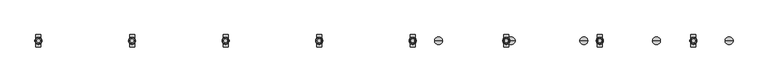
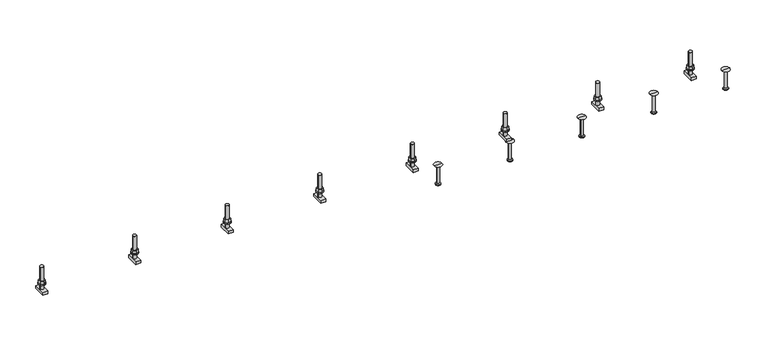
"""IFC4 building model written with IfcOpenShell, lengths in millimetres: fastener geometry, JTA-K JORDAHL® AnchorChannels : JTA-K L=3000 mm."""

from ifc_helpers import new_model, si_unit, point, frame, frame_2d, origin, place, context, project, spatial, polyline, circle_curve, trimmed, segment, composite_curve, outline, extrude, source, transform, mapped, element, save
from ifc_brep_helpers import plane_surface, cylinder_surface, revolved_surface, advanced_brep


def fastener_0f207156(model_context):
    return source(origin(), model_context, "Body", "SolidModel", [
        extrude(outline(polyline([(2608.3333333, -10.3923048), (2599.3333333, -5.1961524), (2599.3333333, 5.1961524), (2608.3333333, 10.3923048), (2617.3333333, 5.1961524), (2617.3333333, -5.1961524), (2608.3333333, -10.3923048)]), holes=[composite_curve([segment(trimmed(circle_curve(frame_2d((2608.3333333, 0.0)), 6.0), [point((2602.3333333, 0.0))], [point((2614.3333333, 0.0))], True, "CARTESIAN"), True, "CONTINUOUS"), segment(trimmed(circle_curve(frame_2d((2608.3333333, 0.0)), 6.0), [point((2614.3333333, 0.0))], [point((2602.3333333, 0.0))], True, "CARTESIAN"), True, "CONTINUOUS")], self_intersect=False)]), frame((0.0, 0.0, 17.5), z_axis=(0.0, 0.0, 1.0), x_axis=(1.0, 0.0, 0.0)), (0.0, 0.0, 1.0), 10.8),
        extrude(outline(composite_curve([segment(trimmed(circle_curve(frame_2d((2608.3333333, 0.0)), 12.0), [point((2596.3333333, 0.0))], [point((2620.3333333, 0.0))], False, "CARTESIAN"), True, "CONTINUOUS"), segment(trimmed(circle_curve(frame_2d((2608.3333333, 0.0)), 12.0), [point((2620.3333333, 0.0))], [point((2596.3333333, 0.0))], False, "CARTESIAN"), True, "CONTINUOUS")], self_intersect=False), holes=[composite_curve([segment(trimmed(circle_curve(frame_2d((2608.3333333, 0.0)), 6.5), [point((2601.8333333, 0.0))], [point((2614.8333333, 0.0))], True, "CARTESIAN"), True, "CONTINUOUS"), segment(trimmed(circle_curve(frame_2d((2608.3333333, 0.0)), 6.5), [point((2614.8333333, 0.0))], [point((2601.8333333, 0.0))], True, "CARTESIAN"), True, "CONTINUOUS")], self_intersect=False)]), frame((0.0, 0.0, 15.0), z_axis=(0.0, 0.0, 1.0), x_axis=(1.0, 0.0, 0.0)), (0.0, 0.0, 1.0), 2.5),
        extrude(outline(polyline([(2291.6666667, -10.3923048), (2282.6666667, -5.1961524), (2282.6666667, 5.1961524), (2291.6666667, 10.3923048), (2300.6666667, 5.1961524), (2300.6666667, -5.1961524), (2291.6666667, -10.3923048)]), holes=[composite_curve([segment(trimmed(circle_curve(frame_2d((2291.6666667, 0.0)), 6.0), [point((2285.6666667, 0.0))], [point((2297.6666667, 0.0))], True, "CARTESIAN"), True, "CONTINUOUS"), segment(trimmed(circle_curve(frame_2d((2291.6666667, 0.0)), 6.0), [point((2297.6666667, 0.0))], [point((2285.6666667, 0.0))], True, "CARTESIAN"), True, "CONTINUOUS")], self_intersect=False)]), frame((0.0, 0.0, 17.5), z_axis=(0.0, 0.0, 1.0), x_axis=(1.0, 0.0, 0.0)), (0.0, 0.0, 1.0), 10.8),
        extrude(outline(composite_curve([segment(trimmed(circle_curve(frame_2d((2291.6666667, 0.0)), 12.0), [point((2279.6666667, 0.0))], [point((2303.6666667, 0.0))], False, "CARTESIAN"), True, "CONTINUOUS"), segment(trimmed(circle_curve(frame_2d((2291.6666667, 0.0)), 12.0), [point((2303.6666667, 0.0))], [point((2279.6666667, 0.0))], False, "CARTESIAN"), True, "CONTINUOUS")], self_intersect=False), holes=[composite_curve([segment(trimmed(circle_curve(frame_2d((2291.6666667, 0.0)), 6.5), [point((2285.1666667, 0.0))], [point((2298.1666667, 0.0))], True, "CARTESIAN"), True, "CONTINUOUS"), segment(trimmed(circle_curve(frame_2d((2291.6666667, 0.0)), 6.5), [point((2298.1666667, 0.0))], [point((2285.1666667, 0.0))], True, "CARTESIAN"), True, "CONTINUOUS")], self_intersect=False)]), frame((0.0, 0.0, 15.0), z_axis=(0.0, 0.0, 1.0), x_axis=(1.0, 0.0, 0.0)), (0.0, 0.0, 1.0), 2.5),
        extrude(outline(polyline([(1975.0, -10.3923048), (1966.0, -5.1961524), (1966.0, 5.1961524), (1975.0, 10.3923048), (1984.0, 5.1961524), (1984.0, -5.1961524), (1975.0, -10.3923048)]), holes=[composite_curve([segment(trimmed(circle_curve(frame_2d((1975.0, 0.0)), 6.0), [point((1969.0, 0.0))], [point((1981.0, 0.0))], True, "CARTESIAN"), True, "CONTINUOUS"), segment(trimmed(circle_curve(frame_2d((1975.0, 0.0)), 6.0), [point((1981.0, 0.0))], [point((1969.0, 0.0))], True, "CARTESIAN"), True, "CONTINUOUS")], self_intersect=False)]), frame((0.0, 0.0, 17.5), z_axis=(0.0, 0.0, 1.0), x_axis=(1.0, 0.0, 0.0)), (0.0, 0.0, 1.0), 10.8),
        extrude(outline(composite_curve([segment(trimmed(circle_curve(frame_2d((1975.0, 0.0)), 12.0), [point((1963.0, 0.0))], [point((1987.0, 0.0))], False, "CARTESIAN"), True, "CONTINUOUS"), segment(trimmed(circle_curve(frame_2d((1975.0, 0.0)), 12.0), [point((1987.0, 0.0))], [point((1963.0, 0.0))], False, "CARTESIAN"), True, "CONTINUOUS")], self_intersect=False), holes=[composite_curve([segment(trimmed(circle_curve(frame_2d((1975.0, 0.0)), 6.5), [point((1968.5, 0.0))], [point((1981.5, 0.0))], True, "CARTESIAN"), True, "CONTINUOUS"), segment(trimmed(circle_curve(frame_2d((1975.0, 0.0)), 6.5), [point((1981.5, 0.0))], [point((1968.5, 0.0))], True, "CARTESIAN"), True, "CONTINUOUS")], self_intersect=False)]), frame((0.0, 0.0, 15.0), z_axis=(0.0, 0.0, 1.0), x_axis=(1.0, 0.0, 0.0)), (0.0, 0.0, 1.0), 2.5),
        extrude(outline(polyline([(1658.3333333, -10.3923048), (1649.3333333, -5.1961524), (1649.3333333, 5.1961524), (1658.3333333, 10.3923048), (1667.3333333, 5.1961524), (1667.3333333, -5.1961524), (1658.3333333, -10.3923048)]), holes=[composite_curve([segment(trimmed(circle_curve(frame_2d((1658.3333333, 0.0)), 6.0), [point((1652.3333333, 0.0))], [point((1664.3333333, 0.0))], True, "CARTESIAN"), True, "CONTINUOUS"), segment(trimmed(circle_curve(frame_2d((1658.3333333, 0.0)), 6.0), [point((1664.3333333, 0.0))], [point((1652.3333333, 0.0))], True, "CARTESIAN"), True, "CONTINUOUS")], self_intersect=False)]), frame((0.0, 0.0, 17.5), z_axis=(0.0, 0.0, 1.0), x_axis=(1.0, 0.0, 0.0)), (0.0, 0.0, 1.0), 10.8),
        extrude(outline(composite_curve([segment(trimmed(circle_curve(frame_2d((1658.3333333, 0.0)), 12.0), [point((1646.3333333, 0.0))], [point((1670.3333333, 0.0))], False, "CARTESIAN"), True, "CONTINUOUS"), segment(trimmed(circle_curve(frame_2d((1658.3333333, 0.0)), 12.0), [point((1670.3333333, 0.0))], [point((1646.3333333, 0.0))], False, "CARTESIAN"), True, "CONTINUOUS")], self_intersect=False), holes=[composite_curve([segment(trimmed(circle_curve(frame_2d((1658.3333333, 0.0)), 6.5), [point((1651.8333333, 0.0))], [point((1664.8333333, 0.0))], True, "CARTESIAN"), True, "CONTINUOUS"), segment(trimmed(circle_curve(frame_2d((1658.3333333, 0.0)), 6.5), [point((1664.8333333, 0.0))], [point((1651.8333333, 0.0))], True, "CARTESIAN"), True, "CONTINUOUS")], self_intersect=False)]), frame((0.0, 0.0, 15.0), z_axis=(0.0, 0.0, 1.0), x_axis=(1.0, 0.0, 0.0)), (0.0, 0.0, 1.0), 2.5),
        extrude(outline(polyline([(1341.6666667, -10.3923048), (1332.6666667, -5.1961524), (1332.6666667, 5.1961524), (1341.6666667, 10.3923048), (1350.6666667, 5.1961524), (1350.6666667, -5.1961524), (1341.6666667, -10.3923048)]), holes=[composite_curve([segment(trimmed(circle_curve(frame_2d((1341.6666667, 0.0)), 6.0), [point((1335.6666667, 0.0))], [point((1347.6666667, 0.0))], True, "CARTESIAN"), True, "CONTINUOUS"), segment(trimmed(circle_curve(frame_2d((1341.6666667, 0.0)), 6.0), [point((1347.6666667, 0.0))], [point((1335.6666667, 0.0))], True, "CARTESIAN"), True, "CONTINUOUS")], self_intersect=False)]), frame((0.0, 0.0, 17.5), z_axis=(0.0, 0.0, 1.0), x_axis=(1.0, 0.0, 0.0)), (0.0, 0.0, 1.0), 10.8),
        extrude(outline(composite_curve([segment(trimmed(circle_curve(frame_2d((1341.6666667, 0.0)), 12.0), [point((1329.6666667, 0.0))], [point((1353.6666667, 0.0))], False, "CARTESIAN"), True, "CONTINUOUS"), segment(trimmed(circle_curve(frame_2d((1341.6666667, 0.0)), 12.0), [point((1353.6666667, 0.0))], [point((1329.6666667, 0.0))], False, "CARTESIAN"), True, "CONTINUOUS")], self_intersect=False), holes=[composite_curve([segment(trimmed(circle_curve(frame_2d((1341.6666667, 0.0)), 6.5), [point((1335.1666667, 0.0))], [point((1348.1666667, 0.0))], True, "CARTESIAN"), True, "CONTINUOUS"), segment(trimmed(circle_curve(frame_2d((1341.6666667, 0.0)), 6.5), [point((1348.1666667, 0.0))], [point((1335.1666667, 0.0))], True, "CARTESIAN"), True, "CONTINUOUS")], self_intersect=False)]), frame((0.0, 0.0, 15.0), z_axis=(0.0, 0.0, 1.0), x_axis=(1.0, 0.0, 0.0)), (0.0, 0.0, 1.0), 2.5),
        extrude(outline(polyline([(1025.0, -10.3923048), (1016.0, -5.1961524), (1016.0, 5.1961524), (1025.0, 10.3923048), (1034.0, 5.1961524), (1034.0, -5.1961524), (1025.0, -10.3923048)]), holes=[composite_curve([segment(trimmed(circle_curve(frame_2d((1025.0, 0.0)), 6.0), [point((1019.0, 0.0))], [point((1031.0, 0.0))], True, "CARTESIAN"), True, "CONTINUOUS"), segment(trimmed(circle_curve(frame_2d((1025.0, 0.0)), 6.0), [point((1031.0, 0.0))], [point((1019.0, 0.0))], True, "CARTESIAN"), True, "CONTINUOUS")], self_intersect=False)]), frame((0.0, 0.0, 17.5), z_axis=(0.0, 0.0, 1.0), x_axis=(1.0, 0.0, 0.0)), (0.0, 0.0, 1.0), 10.8),
        extrude(outline(composite_curve([segment(trimmed(circle_curve(frame_2d((1025.0, 0.0)), 12.0), [point((1013.0, 0.0))], [point((1037.0, 0.0))], False, "CARTESIAN"), True, "CONTINUOUS"), segment(trimmed(circle_curve(frame_2d((1025.0, 0.0)), 12.0), [point((1037.0, 0.0))], [point((1013.0, 0.0))], False, "CARTESIAN"), True, "CONTINUOUS")], self_intersect=False), holes=[composite_curve([segment(trimmed(circle_curve(frame_2d((1025.0, 0.0)), 6.5), [point((1018.5, 0.0))], [point((1031.5, 0.0))], True, "CARTESIAN"), True, "CONTINUOUS"), segment(trimmed(circle_curve(frame_2d((1025.0, 0.0)), 6.5), [point((1031.5, 0.0))], [point((1018.5, 0.0))], True, "CARTESIAN"), True, "CONTINUOUS")], self_intersect=False)]), frame((0.0, 0.0, 15.0), z_axis=(0.0, 0.0, 1.0), x_axis=(1.0, 0.0, 0.0)), (0.0, 0.0, 1.0), 2.5),
        extrude(outline(polyline([(708.3333333, -10.3923048), (699.3333333, -5.1961524), (699.3333333, 5.1961524), (708.3333333, 10.3923048), (717.3333333, 5.1961524), (717.3333333, -5.1961524), (708.3333333, -10.3923048)]), holes=[composite_curve([segment(trimmed(circle_curve(frame_2d((708.3333333, 0.0)), 6.0), [point((702.3333333, 0.0))], [point((714.3333333, 0.0))], True, "CARTESIAN"), True, "CONTINUOUS"), segment(trimmed(circle_curve(frame_2d((708.3333333, 0.0)), 6.0), [point((714.3333333, 0.0))], [point((702.3333333, 0.0))], True, "CARTESIAN"), True, "CONTINUOUS")], self_intersect=False)]), frame((0.0, 0.0, 17.5), z_axis=(0.0, 0.0, 1.0), x_axis=(1.0, 0.0, 0.0)), (0.0, 0.0, 1.0), 10.8),
        extrude(outline(composite_curve([segment(trimmed(circle_curve(frame_2d((708.3333333, 0.0)), 12.0), [point((696.3333333, 0.0))], [point((720.3333333, 0.0))], False, "CARTESIAN"), True, "CONTINUOUS"), segment(trimmed(circle_curve(frame_2d((708.3333333, 0.0)), 12.0), [point((720.3333333, 0.0))], [point((696.3333333, 0.0))], False, "CARTESIAN"), True, "CONTINUOUS")], self_intersect=False), holes=[composite_curve([segment(trimmed(circle_curve(frame_2d((708.3333333, 0.0)), 6.5), [point((701.8333333, 0.0))], [point((714.8333333, 0.0))], True, "CARTESIAN"), True, "CONTINUOUS"), segment(trimmed(circle_curve(frame_2d((708.3333333, 0.0)), 6.5), [point((714.8333333, 0.0))], [point((701.8333333, 0.0))], True, "CARTESIAN"), True, "CONTINUOUS")], self_intersect=False)]), frame((0.0, 0.0, 15.0), z_axis=(0.0, 0.0, 1.0), x_axis=(1.0, 0.0, 0.0)), (0.0, 0.0, 1.0), 2.5),
        extrude(outline(polyline([(391.6666667, -10.3923048), (382.6666667, -5.1961524), (382.6666667, 5.1961524), (391.6666667, 10.3923048), (400.6666667, 5.1961524), (400.6666667, -5.1961524), (391.6666667, -10.3923048)]), holes=[composite_curve([segment(trimmed(circle_curve(frame_2d((391.6666667, 0.0)), 6.0), [point((385.6666667, 0.0))], [point((397.6666667, 0.0))], True, "CARTESIAN"), True, "CONTINUOUS"), segment(trimmed(circle_curve(frame_2d((391.6666667, 0.0)), 6.0), [point((397.6666667, 0.0))], [point((385.6666667, 0.0))], True, "CARTESIAN"), True, "CONTINUOUS")], self_intersect=False)]), frame((0.0, 0.0, 17.5), z_axis=(0.0, 0.0, 1.0), x_axis=(1.0, 0.0, 0.0)), (0.0, 0.0, 1.0), 10.8),
        extrude(outline(composite_curve([segment(trimmed(circle_curve(frame_2d((391.6666667, 0.0)), 12.0), [point((379.6666667, 0.0))], [point((403.6666667, 0.0))], False, "CARTESIAN"), True, "CONTINUOUS"), segment(trimmed(circle_curve(frame_2d((391.6666667, 0.0)), 12.0), [point((403.6666667, 0.0))], [point((379.6666667, 0.0))], False, "CARTESIAN"), True, "CONTINUOUS")], self_intersect=False), holes=[composite_curve([segment(trimmed(circle_curve(frame_2d((391.6666667, 0.0)), 6.5), [point((385.1666667, 0.0))], [point((398.1666667, 0.0))], True, "CARTESIAN"), True, "CONTINUOUS"), segment(trimmed(circle_curve(frame_2d((391.6666667, 0.0)), 6.5), [point((398.1666667, 0.0))], [point((385.1666667, 0.0))], True, "CARTESIAN"), True, "CONTINUOUS")], self_intersect=False)]), frame((0.0, 0.0, 15.0), z_axis=(0.0, 0.0, 1.0), x_axis=(1.0, 0.0, 0.0)), (0.0, 0.0, 1.0), 2.5),
        advanced_brep(
        [(2616.8333333, -20.7, -3.0), (2616.8333333, -20.7, -13.0), (2616.8333333, 20.7, -13.0), (2616.8333333, 20.7, -3.0), (2599.8333333, -20.7, -3.0), (2599.8333333, 20.7, -3.0), (2599.8333333, 20.7, -13.0), (2599.8333333, -20.7, -13.0), (2614.3333333, 0.0, -3.0), (2602.3333333, 0.0, -3.0), (2602.3333333, 0.0, 77.0), (2614.3333333, 0.0, 77.0)],
        [
            (0, 1),
            (1, 2),
            (2, 3),
            (3, 0),
            (4, 5),
            (5, 6),
            (6, 7),
            (7, 4),
            (3, 5),
            (4, 0),
            (8, 9, circle_curve(frame((2608.3333333, 0.0, -3.0), z_axis=(0.0, 0.0, -1.0), x_axis=(1.0, 0.0, 0.0)), 6.0)),
            (9, 8, circle_curve(frame((2608.3333333, 0.0, -3.0), z_axis=(0.0, 0.0, -1.0), x_axis=(1.0, 0.0, 0.0)), 6.0)),
            (2, 6),
            (1, 7),
            (10, 11, circle_curve(frame((2608.3333333, 0.0, 77.0), z_axis=(0.0, 0.0, 1.0), x_axis=(1.0, 0.0, 0.0)), 6.0)),
            (11, 10, circle_curve(frame((2608.3333333, 0.0, 77.0), z_axis=(0.0, 0.0, 1.0), x_axis=(1.0, 0.0, 0.0)), 6.0)),
            (11, 8),
            (9, 10),
        ],
        [
            plane_surface(frame((2616.8333333, 20.7, -3.0), z_axis=(1.0, 0.0, 0.0), x_axis=(0.0, 1.0, 0.0))),
            plane_surface(frame((2599.8333333, 20.7, -3.0), z_axis=(-1.0, 0.0, 0.0), x_axis=(0.0, -1.0, 0.0))),
            plane_surface(frame((2616.8333333, -20.7, -3.0), z_axis=(0.0, 0.0, 1.0), x_axis=(-1.0, 0.0, 0.0))),
            plane_surface(frame((2616.8333333, 20.7, -3.0), z_axis=(0.0, 1.0, 0.0), x_axis=(-1.0, 0.0, 0.0))),
            plane_surface(frame((2616.8333333, 20.7, -13.0), z_axis=(0.0, 0.0, -1.0), x_axis=(-1.0, 0.0, 0.0))),
            plane_surface(frame((2616.8333333, -20.7, -13.0), z_axis=(0.0, -1.0, 0.0), x_axis=(-1.0, 0.0, 0.0))),
            plane_surface(frame((2614.3333333, 0.0, 77.0), z_axis=(0.0, 0.0, 1.0), x_axis=(0.0, -1.0, 0.0))),
            cylinder_surface(frame((2608.3333333, 0.0, -3.0), z_axis=(0.0, 0.0, 1.0), x_axis=(1.0, 0.0, 0.0)), 6.0),
        ],
        [
            (0, [[1, 2, 3, 4]]),
            (1, [[5, 6, 7, 8]]),
            (2, [[9, -5, 10, -4], [11, 12]]),
            (3, [[13, -6, -9, -3]]),
            (4, [[14, -7, -13, -2]]),
            (5, [[-10, -8, -14, -1]]),
            (6, [[15, 16]]),
            (7, [[17, -12, 18, -16]]),
            (7, [[-18, -11, -17, -15]]),
        ],
    ),
        advanced_brep(
        [(2300.1666667, -20.7, -3.0), (2300.1666667, -20.7, -13.0), (2300.1666667, 20.7, -13.0), (2300.1666667, 20.7, -3.0), (2283.1666667, -20.7, -3.0), (2283.1666667, 20.7, -3.0), (2283.1666667, 20.7, -13.0), (2283.1666667, -20.7, -13.0), (2297.6666667, 0.0, -3.0), (2285.6666667, 0.0, -3.0), (2285.6666667, 0.0, 77.0), (2297.6666667, 0.0, 77.0)],
        [
            (0, 1),
            (1, 2),
            (2, 3),
            (3, 0),
            (4, 5),
            (5, 6),
            (6, 7),
            (7, 4),
            (3, 5),
            (4, 0),
            (8, 9, circle_curve(frame((2291.6666667, 0.0, -3.0), z_axis=(0.0, 0.0, -1.0), x_axis=(1.0, 0.0, 0.0)), 6.0)),
            (9, 8, circle_curve(frame((2291.6666667, 0.0, -3.0), z_axis=(0.0, 0.0, -1.0), x_axis=(1.0, 0.0, 0.0)), 6.0)),
            (2, 6),
            (1, 7),
            (10, 11, circle_curve(frame((2291.6666667, 0.0, 77.0), z_axis=(0.0, 0.0, 1.0), x_axis=(1.0, 0.0, 0.0)), 6.0)),
            (11, 10, circle_curve(frame((2291.6666667, 0.0, 77.0), z_axis=(0.0, 0.0, 1.0), x_axis=(1.0, 0.0, 0.0)), 6.0)),
            (11, 8),
            (9, 10),
        ],
        [
            plane_surface(frame((2300.1666667, 20.7, -3.0), z_axis=(1.0, 0.0, 0.0), x_axis=(0.0, 1.0, 0.0))),
            plane_surface(frame((2283.1666667, 20.7, -3.0), z_axis=(-1.0, 0.0, 0.0), x_axis=(0.0, -1.0, 0.0))),
            plane_surface(frame((2300.1666667, -20.7, -3.0), z_axis=(0.0, 0.0, 1.0), x_axis=(-1.0, 0.0, 0.0))),
            plane_surface(frame((2300.1666667, 20.7, -3.0), z_axis=(0.0, 1.0, 0.0), x_axis=(-1.0, 0.0, 0.0))),
            plane_surface(frame((2300.1666667, 20.7, -13.0), z_axis=(0.0, 0.0, -1.0), x_axis=(-1.0, 0.0, 0.0))),
            plane_surface(frame((2300.1666667, -20.7, -13.0), z_axis=(0.0, -1.0, 0.0), x_axis=(-1.0, 0.0, 0.0))),
            plane_surface(frame((2297.6666667, 0.0, 77.0), z_axis=(0.0, 0.0, 1.0), x_axis=(0.0, -1.0, 0.0))),
            cylinder_surface(frame((2291.6666667, 0.0, -3.0), z_axis=(0.0, 0.0, 1.0), x_axis=(1.0, 0.0, 0.0)), 6.0),
        ],
        [
            (0, [[1, 2, 3, 4]]),
            (1, [[5, 6, 7, 8]]),
            (2, [[9, -5, 10, -4], [11, 12]]),
            (3, [[13, -6, -9, -3]]),
            (4, [[14, -7, -13, -2]]),
            (5, [[-10, -8, -14, -1]]),
            (6, [[15, 16]]),
            (7, [[17, -12, 18, -16]]),
            (7, [[-18, -11, -17, -15]]),
        ],
    ),
        advanced_brep(
        [(1983.5, -20.7, -3.0), (1983.5, -20.7, -13.0), (1983.5, 20.7, -13.0), (1983.5, 20.7, -3.0), (1966.5, -20.7, -3.0), (1966.5, 20.7, -3.0), (1966.5, 20.7, -13.0), (1966.5, -20.7, -13.0), (1981.0, 0.0, -3.0), (1969.0, 0.0, -3.0), (1969.0, 0.0, 77.0), (1981.0, 0.0, 77.0)],
        [
            (0, 1),
            (1, 2),
            (2, 3),
            (3, 0),
            (4, 5),
            (5, 6),
            (6, 7),
            (7, 4),
            (3, 5),
            (4, 0),
            (8, 9, circle_curve(frame((1975.0, 0.0, -3.0), z_axis=(0.0, 0.0, -1.0), x_axis=(1.0, 0.0, 0.0)), 6.0)),
            (9, 8, circle_curve(frame((1975.0, 0.0, -3.0), z_axis=(0.0, 0.0, -1.0), x_axis=(1.0, 0.0, 0.0)), 6.0)),
            (2, 6),
            (1, 7),
            (10, 11, circle_curve(frame((1975.0, 0.0, 77.0), z_axis=(0.0, 0.0, 1.0), x_axis=(1.0, 0.0, 0.0)), 6.0)),
            (11, 10, circle_curve(frame((1975.0, 0.0, 77.0), z_axis=(0.0, 0.0, 1.0), x_axis=(1.0, 0.0, 0.0)), 6.0)),
            (11, 8),
            (9, 10),
        ],
        [
            plane_surface(frame((1983.5, 20.7, -3.0), z_axis=(1.0, 0.0, 0.0), x_axis=(0.0, 1.0, 0.0))),
            plane_surface(frame((1966.5, 20.7, -3.0), z_axis=(-1.0, 0.0, 0.0), x_axis=(0.0, -1.0, 0.0))),
            plane_surface(frame((1983.5, -20.7, -3.0), z_axis=(0.0, 0.0, 1.0), x_axis=(-1.0, 0.0, 0.0))),
            plane_surface(frame((1983.5, 20.7, -3.0), z_axis=(0.0, 1.0, 0.0), x_axis=(-1.0, 0.0, 0.0))),
            plane_surface(frame((1983.5, 20.7, -13.0), z_axis=(0.0, 0.0, -1.0), x_axis=(-1.0, 0.0, 0.0))),
            plane_surface(frame((1983.5, -20.7, -13.0), z_axis=(0.0, -1.0, 0.0), x_axis=(-1.0, 0.0, 0.0))),
            plane_surface(frame((1981.0, 0.0, 77.0), z_axis=(0.0, 0.0, 1.0), x_axis=(0.0, -1.0, 0.0))),
            cylinder_surface(frame((1975.0, 0.0, -3.0), z_axis=(0.0, 0.0, 1.0), x_axis=(1.0, 0.0, 0.0)), 6.0),
        ],
        [
            (0, [[1, 2, 3, 4]]),
            (1, [[5, 6, 7, 8]]),
            (2, [[9, -5, 10, -4], [11, 12]]),
            (3, [[13, -6, -9, -3]]),
            (4, [[14, -7, -13, -2]]),
            (5, [[-10, -8, -14, -1]]),
            (6, [[15, 16]]),
            (7, [[17, -12, 18, -16]]),
            (7, [[-18, -11, -17, -15]]),
        ],
    ),
        advanced_brep(
        [(1666.8333333, -20.7, -3.0), (1666.8333333, -20.7, -13.0), (1666.8333333, 20.7, -13.0), (1666.8333333, 20.7, -3.0), (1649.8333333, -20.7, -3.0), (1649.8333333, 20.7, -3.0), (1649.8333333, 20.7, -13.0), (1649.8333333, -20.7, -13.0), (1664.3333333, 0.0, -3.0), (1652.3333333, 0.0, -3.0), (1652.3333333, 0.0, 77.0), (1664.3333333, 0.0, 77.0)],
        [
            (0, 1),
            (1, 2),
            (2, 3),
            (3, 0),
            (4, 5),
            (5, 6),
            (6, 7),
            (7, 4),
            (3, 5),
            (4, 0),
            (8, 9, circle_curve(frame((1658.3333333, 0.0, -3.0), z_axis=(0.0, 0.0, -1.0), x_axis=(1.0, 0.0, 0.0)), 6.0)),
            (9, 8, circle_curve(frame((1658.3333333, 0.0, -3.0), z_axis=(0.0, 0.0, -1.0), x_axis=(1.0, 0.0, 0.0)), 6.0)),
            (2, 6),
            (1, 7),
            (10, 11, circle_curve(frame((1658.3333333, 0.0, 77.0), z_axis=(0.0, 0.0, 1.0), x_axis=(1.0, 0.0, 0.0)), 6.0)),
            (11, 10, circle_curve(frame((1658.3333333, 0.0, 77.0), z_axis=(0.0, 0.0, 1.0), x_axis=(1.0, 0.0, 0.0)), 6.0)),
            (11, 8),
            (9, 10),
        ],
        [
            plane_surface(frame((1666.8333333, 20.7, -3.0), z_axis=(1.0, 0.0, 0.0), x_axis=(0.0, 1.0, 0.0))),
            plane_surface(frame((1649.8333333, 20.7, -3.0), z_axis=(-1.0, 0.0, 0.0), x_axis=(0.0, -1.0, 0.0))),
            plane_surface(frame((1666.8333333, -20.7, -3.0), z_axis=(0.0, 0.0, 1.0), x_axis=(-1.0, 0.0, 0.0))),
            plane_surface(frame((1666.8333333, 20.7, -3.0), z_axis=(0.0, 1.0, 0.0), x_axis=(-1.0, 0.0, 0.0))),
            plane_surface(frame((1666.8333333, 20.7, -13.0), z_axis=(0.0, 0.0, -1.0), x_axis=(-1.0, 0.0, 0.0))),
            plane_surface(frame((1666.8333333, -20.7, -13.0), z_axis=(0.0, -1.0, 0.0), x_axis=(-1.0, 0.0, 0.0))),
            plane_surface(frame((1664.3333333, 0.0, 77.0), z_axis=(0.0, 0.0, 1.0), x_axis=(0.0, -1.0, 0.0))),
            cylinder_surface(frame((1658.3333333, 0.0, -3.0), z_axis=(0.0, 0.0, 1.0), x_axis=(1.0, 0.0, 0.0)), 6.0),
        ],
        [
            (0, [[1, 2, 3, 4]]),
            (1, [[5, 6, 7, 8]]),
            (2, [[9, -5, 10, -4], [11, 12]]),
            (3, [[13, -6, -9, -3]]),
            (4, [[14, -7, -13, -2]]),
            (5, [[-10, -8, -14, -1]]),
            (6, [[15, 16]]),
            (7, [[17, -12, 18, -16]]),
            (7, [[-18, -11, -17, -15]]),
        ],
    ),
        advanced_brep(
        [(1350.1666667, -20.7, -3.0), (1350.1666667, -20.7, -13.0), (1350.1666667, 20.7, -13.0), (1350.1666667, 20.7, -3.0), (1333.1666667, -20.7, -3.0), (1333.1666667, 20.7, -3.0), (1333.1666667, 20.7, -13.0), (1333.1666667, -20.7, -13.0), (1347.6666667, 0.0, -3.0), (1335.6666667, 0.0, -3.0), (1335.6666667, 0.0, 77.0), (1347.6666667, 0.0, 77.0)],
        [
            (0, 1),
            (1, 2),
            (2, 3),
            (3, 0),
            (4, 5),
            (5, 6),
            (6, 7),
            (7, 4),
            (3, 5),
            (4, 0),
            (8, 9, circle_curve(frame((1341.6666667, 0.0, -3.0), z_axis=(0.0, 0.0, -1.0), x_axis=(1.0, 0.0, 0.0)), 6.0)),
            (9, 8, circle_curve(frame((1341.6666667, 0.0, -3.0), z_axis=(0.0, 0.0, -1.0), x_axis=(1.0, 0.0, 0.0)), 6.0)),
            (2, 6),
            (1, 7),
            (10, 11, circle_curve(frame((1341.6666667, 0.0, 77.0), z_axis=(0.0, 0.0, 1.0), x_axis=(1.0, 0.0, 0.0)), 6.0)),
            (11, 10, circle_curve(frame((1341.6666667, 0.0, 77.0), z_axis=(0.0, 0.0, 1.0), x_axis=(1.0, 0.0, 0.0)), 6.0)),
            (11, 8),
            (9, 10),
        ],
        [
            plane_surface(frame((1350.1666667, 20.7, -3.0), z_axis=(1.0, 0.0, 0.0), x_axis=(0.0, 1.0, 0.0))),
            plane_surface(frame((1333.1666667, 20.7, -3.0), z_axis=(-1.0, 0.0, 0.0), x_axis=(0.0, -1.0, 0.0))),
            plane_surface(frame((1350.1666667, -20.7, -3.0), z_axis=(0.0, 0.0, 1.0), x_axis=(-1.0, 0.0, 0.0))),
            plane_surface(frame((1350.1666667, 20.7, -3.0), z_axis=(0.0, 1.0, 0.0), x_axis=(-1.0, 0.0, 0.0))),
            plane_surface(frame((1350.1666667, 20.7, -13.0), z_axis=(0.0, 0.0, -1.0), x_axis=(-1.0, 0.0, 0.0))),
            plane_surface(frame((1350.1666667, -20.7, -13.0), z_axis=(0.0, -1.0, 0.0), x_axis=(-1.0, 0.0, 0.0))),
            plane_surface(frame((1347.6666667, 0.0, 77.0), z_axis=(0.0, 0.0, 1.0), x_axis=(0.0, -1.0, 0.0))),
            cylinder_surface(frame((1341.6666667, 0.0, -3.0), z_axis=(0.0, 0.0, 1.0), x_axis=(1.0, 0.0, 0.0)), 6.0),
        ],
        [
            (0, [[1, 2, 3, 4]]),
            (1, [[5, 6, 7, 8]]),
            (2, [[9, -5, 10, -4], [11, 12]]),
            (3, [[13, -6, -9, -3]]),
            (4, [[14, -7, -13, -2]]),
            (5, [[-10, -8, -14, -1]]),
            (6, [[15, 16]]),
            (7, [[17, -12, 18, -16]]),
            (7, [[-18, -11, -17, -15]]),
        ],
    ),
        advanced_brep(
        [(1033.5, -20.7, -3.0), (1033.5, -20.7, -13.0), (1033.5, 20.7, -13.0), (1033.5, 20.7, -3.0), (1016.5, -20.7, -3.0), (1016.5, 20.7, -3.0), (1016.5, 20.7, -13.0), (1016.5, -20.7, -13.0), (1031.0, 0.0, -3.0), (1019.0, 0.0, -3.0), (1019.0, 0.0, 77.0), (1031.0, 0.0, 77.0)],
        [
            (0, 1),
            (1, 2),
            (2, 3),
            (3, 0),
            (4, 5),
            (5, 6),
            (6, 7),
            (7, 4),
            (3, 5),
            (4, 0),
            (8, 9, circle_curve(frame((1025.0, 0.0, -3.0), z_axis=(0.0, 0.0, -1.0), x_axis=(1.0, 0.0, 0.0)), 6.0)),
            (9, 8, circle_curve(frame((1025.0, 0.0, -3.0), z_axis=(0.0, 0.0, -1.0), x_axis=(1.0, 0.0, 0.0)), 6.0)),
            (2, 6),
            (1, 7),
            (10, 11, circle_curve(frame((1025.0, 0.0, 77.0), z_axis=(0.0, 0.0, 1.0), x_axis=(1.0, 0.0, 0.0)), 6.0)),
            (11, 10, circle_curve(frame((1025.0, 0.0, 77.0), z_axis=(0.0, 0.0, 1.0), x_axis=(1.0, 0.0, 0.0)), 6.0)),
            (11, 8),
            (9, 10),
        ],
        [
            plane_surface(frame((1033.5, 20.7, -3.0), z_axis=(1.0, 0.0, 0.0), x_axis=(0.0, 1.0, 0.0))),
            plane_surface(frame((1016.5, 20.7, -3.0), z_axis=(-1.0, 0.0, 0.0), x_axis=(0.0, -1.0, 0.0))),
            plane_surface(frame((1033.5, -20.7, -3.0), z_axis=(0.0, 0.0, 1.0), x_axis=(-1.0, 0.0, 0.0))),
            plane_surface(frame((1033.5, 20.7, -3.0), z_axis=(0.0, 1.0, 0.0), x_axis=(-1.0, 0.0, 0.0))),
            plane_surface(frame((1033.5, 20.7, -13.0), z_axis=(0.0, 0.0, -1.0), x_axis=(-1.0, 0.0, 0.0))),
            plane_surface(frame((1033.5, -20.7, -13.0), z_axis=(0.0, -1.0, 0.0), x_axis=(-1.0, 0.0, 0.0))),
            plane_surface(frame((1031.0, 0.0, 77.0), z_axis=(0.0, 0.0, 1.0), x_axis=(0.0, -1.0, 0.0))),
            cylinder_surface(frame((1025.0, 0.0, -3.0), z_axis=(0.0, 0.0, 1.0), x_axis=(1.0, 0.0, 0.0)), 6.0),
        ],
        [
            (0, [[1, 2, 3, 4]]),
            (1, [[5, 6, 7, 8]]),
            (2, [[9, -5, 10, -4], [11, 12]]),
            (3, [[13, -6, -9, -3]]),
            (4, [[14, -7, -13, -2]]),
            (5, [[-10, -8, -14, -1]]),
            (6, [[15, 16]]),
            (7, [[17, -12, 18, -16]]),
            (7, [[-18, -11, -17, -15]]),
        ],
    ),
        advanced_brep(
        [(716.8333333, -20.7, -3.0), (716.8333333, -20.7, -13.0), (716.8333333, 20.7, -13.0), (716.8333333, 20.7, -3.0), (699.8333333, -20.7, -3.0), (699.8333333, 20.7, -3.0), (699.8333333, 20.7, -13.0), (699.8333333, -20.7, -13.0), (714.3333333, 0.0, -3.0), (702.3333333, 0.0, -3.0), (702.3333333, 0.0, 77.0), (714.3333333, 0.0, 77.0)],
        [
            (0, 1),
            (1, 2),
            (2, 3),
            (3, 0),
            (4, 5),
            (5, 6),
            (6, 7),
            (7, 4),
            (3, 5),
            (4, 0),
            (8, 9, circle_curve(frame((708.3333333, 0.0, -3.0), z_axis=(0.0, 0.0, -1.0), x_axis=(1.0, 0.0, 0.0)), 6.0)),
            (9, 8, circle_curve(frame((708.3333333, 0.0, -3.0), z_axis=(0.0, 0.0, -1.0), x_axis=(1.0, 0.0, 0.0)), 6.0)),
            (2, 6),
            (1, 7),
            (10, 11, circle_curve(frame((708.3333333, 0.0, 77.0), z_axis=(0.0, 0.0, 1.0), x_axis=(1.0, 0.0, 0.0)), 6.0)),
            (11, 10, circle_curve(frame((708.3333333, 0.0, 77.0), z_axis=(0.0, 0.0, 1.0), x_axis=(1.0, 0.0, 0.0)), 6.0)),
            (11, 8),
            (9, 10),
        ],
        [
            plane_surface(frame((716.8333333, 20.7, -3.0), z_axis=(1.0, 0.0, 0.0), x_axis=(0.0, 1.0, 0.0))),
            plane_surface(frame((699.8333333, 20.7, -3.0), z_axis=(-1.0, 0.0, 0.0), x_axis=(0.0, -1.0, 0.0))),
            plane_surface(frame((716.8333333, -20.7, -3.0), z_axis=(0.0, 0.0, 1.0), x_axis=(-1.0, 0.0, 0.0))),
            plane_surface(frame((716.8333333, 20.7, -3.0), z_axis=(0.0, 1.0, 0.0), x_axis=(-1.0, 0.0, 0.0))),
            plane_surface(frame((716.8333333, 20.7, -13.0), z_axis=(0.0, 0.0, -1.0), x_axis=(-1.0, 0.0, 0.0))),
            plane_surface(frame((716.8333333, -20.7, -13.0), z_axis=(0.0, -1.0, 0.0), x_axis=(-1.0, 0.0, 0.0))),
            plane_surface(frame((714.3333333, 0.0, 77.0), z_axis=(0.0, 0.0, 1.0), x_axis=(0.0, -1.0, 0.0))),
            cylinder_surface(frame((708.3333333, 0.0, -3.0), z_axis=(0.0, 0.0, 1.0), x_axis=(1.0, 0.0, 0.0)), 6.0),
        ],
        [
            (0, [[1, 2, 3, 4]]),
            (1, [[5, 6, 7, 8]]),
            (2, [[9, -5, 10, -4], [11, 12]]),
            (3, [[13, -6, -9, -3]]),
            (4, [[14, -7, -13, -2]]),
            (5, [[-10, -8, -14, -1]]),
            (6, [[15, 16]]),
            (7, [[17, -12, 18, -16]]),
            (7, [[-18, -11, -17, -15]]),
        ],
    ),
        advanced_brep(
        [(400.1666667, -20.7, -3.0), (400.1666667, -20.7, -13.0), (400.1666667, 20.7, -13.0), (400.1666667, 20.7, -3.0), (383.1666667, -20.7, -3.0), (383.1666667, 20.7, -3.0), (383.1666667, 20.7, -13.0), (383.1666667, -20.7, -13.0), (397.6666667, 0.0, -3.0), (385.6666667, 0.0, -3.0), (385.6666667, 0.0, 77.0), (397.6666667, 0.0, 77.0)],
        [
            (0, 1),
            (1, 2),
            (2, 3),
            (3, 0),
            (4, 5),
            (5, 6),
            (6, 7),
            (7, 4),
            (3, 5),
            (4, 0),
            (8, 9, circle_curve(frame((391.6666667, 0.0, -3.0), z_axis=(0.0, 0.0, -1.0), x_axis=(1.0, 0.0, 0.0)), 6.0)),
            (9, 8, circle_curve(frame((391.6666667, 0.0, -3.0), z_axis=(0.0, 0.0, -1.0), x_axis=(1.0, 0.0, 0.0)), 6.0)),
            (2, 6),
            (1, 7),
            (10, 11, circle_curve(frame((391.6666667, 0.0, 77.0), z_axis=(0.0, 0.0, 1.0), x_axis=(1.0, 0.0, 0.0)), 6.0)),
            (11, 10, circle_curve(frame((391.6666667, 0.0, 77.0), z_axis=(0.0, 0.0, 1.0), x_axis=(1.0, 0.0, 0.0)), 6.0)),
            (11, 8),
            (9, 10),
        ],
        [
            plane_surface(frame((400.1666667, 20.7, -3.0), z_axis=(1.0, 0.0, 0.0), x_axis=(0.0, 1.0, 0.0))),
            plane_surface(frame((383.1666667, 20.7, -3.0), z_axis=(-1.0, 0.0, 0.0), x_axis=(0.0, -1.0, 0.0))),
            plane_surface(frame((400.1666667, -20.7, -3.0), z_axis=(0.0, 0.0, 1.0), x_axis=(-1.0, 0.0, 0.0))),
            plane_surface(frame((400.1666667, 20.7, -3.0), z_axis=(0.0, 1.0, 0.0), x_axis=(-1.0, 0.0, 0.0))),
            plane_surface(frame((400.1666667, 20.7, -13.0), z_axis=(0.0, 0.0, -1.0), x_axis=(-1.0, 0.0, 0.0))),
            plane_surface(frame((400.1666667, -20.7, -13.0), z_axis=(0.0, -1.0, 0.0), x_axis=(-1.0, 0.0, 0.0))),
            plane_surface(frame((397.6666667, 0.0, 77.0), z_axis=(0.0, 0.0, 1.0), x_axis=(0.0, -1.0, 0.0))),
            cylinder_surface(frame((391.6666667, 0.0, -3.0), z_axis=(0.0, 0.0, 1.0), x_axis=(1.0, 0.0, 0.0)), 6.0),
        ],
        [
            (0, [[1, 2, 3, 4]]),
            (1, [[5, 6, 7, 8]]),
            (2, [[9, -5, 10, -4], [11, 12]]),
            (3, [[13, -6, -9, -3]]),
            (4, [[14, -7, -13, -2]]),
            (5, [[-10, -8, -14, -1]]),
            (6, [[15, 16]]),
            (7, [[17, -12, 18, -16]]),
            (7, [[-18, -11, -17, -15]]),
        ],
    ),
        advanced_brep(
        [(2729.1666667, 0.0, -30.0), (2715.6666667, 0.0, -30.0), (2742.6666667, 0.0, -30.0), (2720.6666667, 0.0, -100.0), (2729.1666667, 0.0, -100.0), (2737.6666667, 0.0, -100.0), (2720.6666667, 0.0, -98.0), (2737.6666667, 0.0, -98.0), (2724.6666667, 0.0, -95.6905989), (2733.6666667, 0.0, -95.6905989), (2724.6666667, 0.0, -32.5), (2733.6666667, 0.0, -32.5)],
        [
            (0, 1),
            (1, 2, circle_curve(frame((2729.1666667, 0.0, -30.0), z_axis=(0.0, 0.0, 1.0), x_axis=(1.0, 0.0, 0.0)), 13.5)),
            (2, 0),
            (2, 1, circle_curve(frame((2729.1666667, 0.0, -30.0), z_axis=(0.0, 0.0, 1.0), x_axis=(1.0, 0.0, 0.0)), 13.5)),
            (3, 4),
            (4, 5),
            (5, 3, circle_curve(frame((2729.1666667, 0.0, -100.0), z_axis=(0.0, 0.0, -1.0), x_axis=(1.0, 0.0, 0.0)), 8.5)),
            (3, 5, circle_curve(frame((2729.1666667, 0.0, -100.0), z_axis=(0.0, 0.0, -1.0), x_axis=(1.0, 0.0, 0.0)), 8.5)),
            (6, 3),
            (5, 7),
            (7, 6, circle_curve(frame((2729.1666667, 0.0, -98.0), z_axis=(0.0, 0.0, -1.0), x_axis=(1.0, 0.0, 0.0)), 8.5)),
            (6, 7, circle_curve(frame((2729.1666667, 0.0, -98.0), z_axis=(0.0, 0.0, -1.0), x_axis=(1.0, 0.0, 0.0)), 8.5)),
            (8, 6),
            (7, 9),
            (9, 8, circle_curve(frame((2729.1666667, 0.0, -95.6905989), z_axis=(0.0, 0.0, -1.0), x_axis=(1.0, 0.0, 0.0)), 4.5)),
            (8, 9, circle_curve(frame((2729.1666667, 0.0, -95.6905989), z_axis=(0.0, 0.0, -1.0), x_axis=(1.0, 0.0, 0.0)), 4.5)),
            (10, 8),
            (9, 11),
            (11, 10, circle_curve(frame((2729.1666667, 0.0, -32.5), z_axis=(0.0, 0.0, -1.0), x_axis=(1.0, 0.0, 0.0)), 4.5)),
            (10, 11, circle_curve(frame((2729.1666667, 0.0, -32.5), z_axis=(0.0, 0.0, -1.0), x_axis=(1.0, 0.0, 0.0)), 4.5)),
            (1, 10),
            (11, 2),
        ],
        [
            plane_surface(frame((2729.1666667, 0.0, -30.0), z_axis=(0.0, 0.0, 1.0), x_axis=(1.0, 0.0, 0.0))),
            plane_surface(frame((2729.1666667, 0.0, -100.0), z_axis=(0.0, 0.0, -1.0), x_axis=(1.0, 0.0, 0.0))),
            cylinder_surface(frame((2729.1666667, 0.0, 2284.3150031), z_axis=(0.0, 0.0, 1.0), x_axis=(1.0, 0.0, 0.0)), 8.5),
            revolved_surface(polyline([(2737.6666667, 0.0, -98.0), (2733.6666667, 0.0, -95.6905989)]), (2729.1666667, 0.0, 2284.3150031), (0.0, 0.0, 1.0)),
            cylinder_surface(frame((2729.1666667, 0.0, 2284.3150031), z_axis=(0.0, 0.0, 1.0), x_axis=(1.0, 0.0, 0.0)), 4.5),
            revolved_surface(polyline([(2733.6666667, 0.0, -32.5), (2742.6666667, 0.0, -30.0)]), (2729.1666667, 0.0, 2284.3150031), (0.0, 0.0, 1.0)),
        ],
        [
            (0, [[1, 2, 3]]),
            (0, [[-3, 4, -1]]),
            (1, [[5, 6, 7]]),
            (1, [[-6, -5, 8]]),
            (2, [[9, -7, 10, 11]]),
            (2, [[-10, -8, -9, 12]]),
            (3, [[13, -11, 14, 15]]),
            (3, [[-14, -12, -13, 16]]),
            (4, [[17, -15, 18, 19]]),
            (4, [[-18, -16, -17, 20]]),
            (5, [[21, -19, 22, -2]]),
            (5, [[-22, -20, -21, -4]]),
        ],
    ),
        advanced_brep(
        [(2483.3333333, 0.0, -30.0), (2469.8333333, 0.0, -30.0), (2496.8333333, 0.0, -30.0), (2474.8333333, 0.0, -100.0), (2483.3333333, 0.0, -100.0), (2491.8333333, 0.0, -100.0), (2474.8333333, 0.0, -98.0), (2491.8333333, 0.0, -98.0), (2478.8333333, 0.0, -95.6905989), (2487.8333333, 0.0, -95.6905989), (2478.8333333, 0.0, -32.5), (2487.8333333, 0.0, -32.5)],
        [
            (0, 1),
            (1, 2, circle_curve(frame((2483.3333333, 0.0, -30.0), z_axis=(0.0, 0.0, 1.0), x_axis=(1.0, 0.0, 0.0)), 13.5)),
            (2, 0),
            (2, 1, circle_curve(frame((2483.3333333, 0.0, -30.0), z_axis=(0.0, 0.0, 1.0), x_axis=(1.0, 0.0, 0.0)), 13.5)),
            (3, 4),
            (4, 5),
            (5, 3, circle_curve(frame((2483.3333333, 0.0, -100.0), z_axis=(0.0, 0.0, -1.0), x_axis=(1.0, 0.0, 0.0)), 8.5)),
            (3, 5, circle_curve(frame((2483.3333333, 0.0, -100.0), z_axis=(0.0, 0.0, -1.0), x_axis=(1.0, 0.0, 0.0)), 8.5)),
            (6, 3),
            (5, 7),
            (7, 6, circle_curve(frame((2483.3333333, 0.0, -98.0), z_axis=(0.0, 0.0, -1.0), x_axis=(1.0, 0.0, 0.0)), 8.5)),
            (6, 7, circle_curve(frame((2483.3333333, 0.0, -98.0), z_axis=(0.0, 0.0, -1.0), x_axis=(1.0, 0.0, 0.0)), 8.5)),
            (8, 6),
            (7, 9),
            (9, 8, circle_curve(frame((2483.3333333, 0.0, -95.6905989), z_axis=(0.0, 0.0, -1.0), x_axis=(1.0, 0.0, 0.0)), 4.5)),
            (8, 9, circle_curve(frame((2483.3333333, 0.0, -95.6905989), z_axis=(0.0, 0.0, -1.0), x_axis=(1.0, 0.0, 0.0)), 4.5)),
            (10, 8),
            (9, 11),
            (11, 10, circle_curve(frame((2483.3333333, 0.0, -32.5), z_axis=(0.0, 0.0, -1.0), x_axis=(1.0, 0.0, 0.0)), 4.5)),
            (10, 11, circle_curve(frame((2483.3333333, 0.0, -32.5), z_axis=(0.0, 0.0, -1.0), x_axis=(1.0, 0.0, 0.0)), 4.5)),
            (1, 10),
            (11, 2),
        ],
        [
            plane_surface(frame((2483.3333333, 0.0, -30.0), z_axis=(0.0, 0.0, 1.0), x_axis=(1.0, 0.0, 0.0))),
            plane_surface(frame((2483.3333333, 0.0, -100.0), z_axis=(0.0, 0.0, -1.0), x_axis=(1.0, 0.0, 0.0))),
            cylinder_surface(frame((2483.3333333, 0.0, 2284.3150031), z_axis=(0.0, 0.0, 1.0), x_axis=(1.0, 0.0, 0.0)), 8.5),
            revolved_surface(polyline([(2491.8333333, 0.0, -98.0), (2487.8333333, 0.0, -95.6905989)]), (2483.3333333, 0.0, 2284.3150031), (0.0, 0.0, 1.0)),
            cylinder_surface(frame((2483.3333333, 0.0, 2284.3150031), z_axis=(0.0, 0.0, 1.0), x_axis=(1.0, 0.0, 0.0)), 4.5),
            revolved_surface(polyline([(2487.8333333, 0.0, -32.5), (2496.8333333, 0.0, -30.0)]), (2483.3333333, 0.0, 2284.3150031), (0.0, 0.0, 1.0)),
        ],
        [
            (0, [[1, 2, 3]]),
            (0, [[-3, 4, -1]]),
            (1, [[5, 6, 7]]),
            (1, [[-6, -5, 8]]),
            (2, [[9, -7, 10, 11]]),
            (2, [[-10, -8, -9, 12]]),
            (3, [[13, -11, 14, 15]]),
            (3, [[-14, -12, -13, 16]]),
            (4, [[17, -15, 18, 19]]),
            (4, [[-18, -16, -17, 20]]),
            (5, [[21, -19, 22, -2]]),
            (5, [[-22, -20, -21, -4]]),
        ],
    ),
        advanced_brep(
        [(2237.5, 0.0, -30.0), (2224.0, 0.0, -30.0), (2251.0, 0.0, -30.0), (2229.0, 0.0, -100.0), (2237.5, 0.0, -100.0), (2246.0, 0.0, -100.0), (2229.0, 0.0, -98.0), (2246.0, 0.0, -98.0), (2233.0, 0.0, -95.6905989), (2242.0, 0.0, -95.6905989), (2233.0, 0.0, -32.5), (2242.0, 0.0, -32.5)],
        [
            (0, 1),
            (1, 2, circle_curve(frame((2237.5, 0.0, -30.0), z_axis=(0.0, 0.0, 1.0), x_axis=(1.0, 0.0, 0.0)), 13.5)),
            (2, 0),
            (2, 1, circle_curve(frame((2237.5, 0.0, -30.0), z_axis=(0.0, 0.0, 1.0), x_axis=(1.0, 0.0, 0.0)), 13.5)),
            (3, 4),
            (4, 5),
            (5, 3, circle_curve(frame((2237.5, 0.0, -100.0), z_axis=(0.0, 0.0, -1.0), x_axis=(1.0, 0.0, 0.0)), 8.5)),
            (3, 5, circle_curve(frame((2237.5, 0.0, -100.0), z_axis=(0.0, 0.0, -1.0), x_axis=(1.0, 0.0, 0.0)), 8.5)),
            (6, 3),
            (5, 7),
            (7, 6, circle_curve(frame((2237.5, 0.0, -98.0), z_axis=(0.0, 0.0, -1.0), x_axis=(1.0, 0.0, 0.0)), 8.5)),
            (6, 7, circle_curve(frame((2237.5, 0.0, -98.0), z_axis=(0.0, 0.0, -1.0), x_axis=(1.0, 0.0, 0.0)), 8.5)),
            (8, 6),
            (7, 9),
            (9, 8, circle_curve(frame((2237.5, 0.0, -95.6905989), z_axis=(0.0, 0.0, -1.0), x_axis=(1.0, 0.0, 0.0)), 4.5)),
            (8, 9, circle_curve(frame((2237.5, 0.0, -95.6905989), z_axis=(0.0, 0.0, -1.0), x_axis=(1.0, 0.0, 0.0)), 4.5)),
            (10, 8),
            (9, 11),
            (11, 10, circle_curve(frame((2237.5, 0.0, -32.5), z_axis=(0.0, 0.0, -1.0), x_axis=(1.0, 0.0, 0.0)), 4.5)),
            (10, 11, circle_curve(frame((2237.5, 0.0, -32.5), z_axis=(0.0, 0.0, -1.0), x_axis=(1.0, 0.0, 0.0)), 4.5)),
            (1, 10),
            (11, 2),
        ],
        [
            plane_surface(frame((2237.5, 0.0, -30.0), z_axis=(0.0, 0.0, 1.0), x_axis=(1.0, 0.0, 0.0))),
            plane_surface(frame((2237.5, 0.0, -100.0), z_axis=(0.0, 0.0, -1.0), x_axis=(1.0, 0.0, 0.0))),
            cylinder_surface(frame((2237.5, 0.0, 2284.3150031), z_axis=(0.0, 0.0, 1.0), x_axis=(1.0, 0.0, 0.0)), 8.5),
            revolved_surface(polyline([(2246.0, 0.0, -98.0), (2242.0, 0.0, -95.6905989)]), (2237.5, 0.0, 2284.3150031), (0.0, 0.0, 1.0)),
            cylinder_surface(frame((2237.5, 0.0, 2284.3150031), z_axis=(0.0, 0.0, 1.0), x_axis=(1.0, 0.0, 0.0)), 4.5),
            revolved_surface(polyline([(2242.0, 0.0, -32.5), (2251.0, 0.0, -30.0)]), (2237.5, 0.0, 2284.3150031), (0.0, 0.0, 1.0)),
        ],
        [
            (0, [[1, 2, 3]]),
            (0, [[-3, 4, -1]]),
            (1, [[5, 6, 7]]),
            (1, [[-6, -5, 8]]),
            (2, [[9, -7, 10, 11]]),
            (2, [[-10, -8, -9, 12]]),
            (3, [[13, -11, 14, 15]]),
            (3, [[-14, -12, -13, 16]]),
            (4, [[17, -15, 18, 19]]),
            (4, [[-18, -16, -17, 20]]),
            (5, [[21, -19, 22, -2]]),
            (5, [[-22, -20, -21, -4]]),
        ],
    ),
        advanced_brep(
        [(1991.6666667, 0.0, -30.0), (1978.1666667, 0.0, -30.0), (2005.1666667, 0.0, -30.0), (1983.1666667, 0.0, -100.0), (1991.6666667, 0.0, -100.0), (2000.1666667, 0.0, -100.0), (1983.1666667, 0.0, -98.0), (2000.1666667, 0.0, -98.0), (1987.1666667, 0.0, -95.6905989), (1996.1666667, 0.0, -95.6905989), (1987.1666667, 0.0, -32.5), (1996.1666667, 0.0, -32.5)],
        [
            (0, 1),
            (1, 2, circle_curve(frame((1991.6666667, 0.0, -30.0), z_axis=(0.0, 0.0, 1.0), x_axis=(1.0, 0.0, 0.0)), 13.5)),
            (2, 0),
            (2, 1, circle_curve(frame((1991.6666667, 0.0, -30.0), z_axis=(0.0, 0.0, 1.0), x_axis=(1.0, 0.0, 0.0)), 13.5)),
            (3, 4),
            (4, 5),
            (5, 3, circle_curve(frame((1991.6666667, 0.0, -100.0), z_axis=(0.0, 0.0, -1.0), x_axis=(1.0, 0.0, 0.0)), 8.5)),
            (3, 5, circle_curve(frame((1991.6666667, 0.0, -100.0), z_axis=(0.0, 0.0, -1.0), x_axis=(1.0, 0.0, 0.0)), 8.5)),
            (6, 3),
            (5, 7),
            (7, 6, circle_curve(frame((1991.6666667, 0.0, -98.0), z_axis=(0.0, 0.0, -1.0), x_axis=(1.0, 0.0, 0.0)), 8.5)),
            (6, 7, circle_curve(frame((1991.6666667, 0.0, -98.0), z_axis=(0.0, 0.0, -1.0), x_axis=(1.0, 0.0, 0.0)), 8.5)),
            (8, 6),
            (7, 9),
            (9, 8, circle_curve(frame((1991.6666667, 0.0, -95.6905989), z_axis=(0.0, 0.0, -1.0), x_axis=(1.0, 0.0, 0.0)), 4.5)),
            (8, 9, circle_curve(frame((1991.6666667, 0.0, -95.6905989), z_axis=(0.0, 0.0, -1.0), x_axis=(1.0, 0.0, 0.0)), 4.5)),
            (10, 8),
            (9, 11),
            (11, 10, circle_curve(frame((1991.6666667, 0.0, -32.5), z_axis=(0.0, 0.0, -1.0), x_axis=(1.0, 0.0, 0.0)), 4.5)),
            (10, 11, circle_curve(frame((1991.6666667, 0.0, -32.5), z_axis=(0.0, 0.0, -1.0), x_axis=(1.0, 0.0, 0.0)), 4.5)),
            (1, 10),
            (11, 2),
        ],
        [
            plane_surface(frame((1991.6666667, 0.0, -30.0), z_axis=(0.0, 0.0, 1.0), x_axis=(1.0, 0.0, 0.0))),
            plane_surface(frame((1991.6666667, 0.0, -100.0), z_axis=(0.0, 0.0, -1.0), x_axis=(1.0, 0.0, 0.0))),
            cylinder_surface(frame((1991.6666667, 0.0, 2284.3150031), z_axis=(0.0, 0.0, 1.0), x_axis=(1.0, 0.0, 0.0)), 8.5),
            revolved_surface(polyline([(2000.1666667, 0.0, -98.0), (1996.1666667, 0.0, -95.6905989)]), (1991.6666667, 0.0, 2284.3150031), (0.0, 0.0, 1.0)),
            cylinder_surface(frame((1991.6666667, 0.0, 2284.3150031), z_axis=(0.0, 0.0, 1.0), x_axis=(1.0, 0.0, 0.0)), 4.5),
            revolved_surface(polyline([(1996.1666667, 0.0, -32.5), (2005.1666667, 0.0, -30.0)]), (1991.6666667, 0.0, 2284.3150031), (0.0, 0.0, 1.0)),
        ],
        [
            (0, [[1, 2, 3]]),
            (0, [[-3, 4, -1]]),
            (1, [[5, 6, 7]]),
            (1, [[-6, -5, 8]]),
            (2, [[9, -7, 10, 11]]),
            (2, [[-10, -8, -9, 12]]),
            (3, [[13, -11, 14, 15]]),
            (3, [[-14, -12, -13, 16]]),
            (4, [[17, -15, 18, 19]]),
            (4, [[-18, -16, -17, 20]]),
            (5, [[21, -19, 22, -2]]),
            (5, [[-22, -20, -21, -4]]),
        ],
    ),
        advanced_brep(
        [(1745.8333333, 0.0, -30.0), (1732.3333333, 0.0, -30.0), (1759.3333333, 0.0, -30.0), (1737.3333333, 0.0, -100.0), (1745.8333333, 0.0, -100.0), (1754.3333333, 0.0, -100.0), (1737.3333333, 0.0, -98.0), (1754.3333333, 0.0, -98.0), (1741.3333333, 0.0, -95.6905989), (1750.3333333, 0.0, -95.6905989), (1741.3333333, 0.0, -32.5), (1750.3333333, 0.0, -32.5)],
        [
            (0, 1),
            (1, 2, circle_curve(frame((1745.8333333, 0.0, -30.0), z_axis=(0.0, 0.0, 1.0), x_axis=(1.0, 0.0, 0.0)), 13.5)),
            (2, 0),
            (2, 1, circle_curve(frame((1745.8333333, 0.0, -30.0), z_axis=(0.0, 0.0, 1.0), x_axis=(1.0, 0.0, 0.0)), 13.5)),
            (3, 4),
            (4, 5),
            (5, 3, circle_curve(frame((1745.8333333, 0.0, -100.0), z_axis=(0.0, 0.0, -1.0), x_axis=(1.0, 0.0, 0.0)), 8.5)),
            (3, 5, circle_curve(frame((1745.8333333, 0.0, -100.0), z_axis=(0.0, 0.0, -1.0), x_axis=(1.0, 0.0, 0.0)), 8.5)),
            (6, 3),
            (5, 7),
            (7, 6, circle_curve(frame((1745.8333333, 0.0, -98.0), z_axis=(0.0, 0.0, -1.0), x_axis=(1.0, 0.0, 0.0)), 8.5)),
            (6, 7, circle_curve(frame((1745.8333333, 0.0, -98.0), z_axis=(0.0, 0.0, -1.0), x_axis=(1.0, 0.0, 0.0)), 8.5)),
            (8, 6),
            (7, 9),
            (9, 8, circle_curve(frame((1745.8333333, 0.0, -95.6905989), z_axis=(0.0, 0.0, -1.0), x_axis=(1.0, 0.0, 0.0)), 4.5)),
            (8, 9, circle_curve(frame((1745.8333333, 0.0, -95.6905989), z_axis=(0.0, 0.0, -1.0), x_axis=(1.0, 0.0, 0.0)), 4.5)),
            (10, 8),
            (9, 11),
            (11, 10, circle_curve(frame((1745.8333333, 0.0, -32.5), z_axis=(0.0, 0.0, -1.0), x_axis=(1.0, 0.0, 0.0)), 4.5)),
            (10, 11, circle_curve(frame((1745.8333333, 0.0, -32.5), z_axis=(0.0, 0.0, -1.0), x_axis=(1.0, 0.0, 0.0)), 4.5)),
            (1, 10),
            (11, 2),
        ],
        [
            plane_surface(frame((1745.8333333, 0.0, -30.0), z_axis=(0.0, 0.0, 1.0), x_axis=(1.0, 0.0, 0.0))),
            plane_surface(frame((1745.8333333, 0.0, -100.0), z_axis=(0.0, 0.0, -1.0), x_axis=(1.0, 0.0, 0.0))),
            cylinder_surface(frame((1745.8333333, 0.0, 2284.3150031), z_axis=(0.0, 0.0, 1.0), x_axis=(1.0, 0.0, 0.0)), 8.5),
            revolved_surface(polyline([(1754.3333333, 0.0, -98.0), (1750.3333333, 0.0, -95.6905989)]), (1745.8333333, 0.0, 2284.3150031), (0.0, 0.0, 1.0)),
            cylinder_surface(frame((1745.8333333, 0.0, 2284.3150031), z_axis=(0.0, 0.0, 1.0), x_axis=(1.0, 0.0, 0.0)), 4.5),
            revolved_surface(polyline([(1750.3333333, 0.0, -32.5), (1759.3333333, 0.0, -30.0)]), (1745.8333333, 0.0, 2284.3150031), (0.0, 0.0, 1.0)),
        ],
        [
            (0, [[1, 2, 3]]),
            (0, [[-3, 4, -1]]),
            (1, [[5, 6, 7]]),
            (1, [[-6, -5, 8]]),
            (2, [[9, -7, 10, 11]]),
            (2, [[-10, -8, -9, 12]]),
            (3, [[13, -11, 14, 15]]),
            (3, [[-14, -12, -13, 16]]),
            (4, [[17, -15, 18, 19]]),
            (4, [[-18, -16, -17, 20]]),
            (5, [[21, -19, 22, -2]]),
            (5, [[-22, -20, -21, -4]]),
        ],
    ),
    ])


if __name__ == "__main__":
    model = new_model("IFC4")
    model_context = context("Model", 3, world=origin())
    ifc_project = project(units=[si_unit("LENGTHUNIT", "METRE", prefix="MILLI")], contexts=[model_context])
    site = spatial("IfcSite", under=ifc_project)
    building = spatial("IfcBuilding", under=site)
    placement = place(None, origin())
    fastener_shape = fastener_0f207156(model_context)
    element("IfcFastener", 1, ObjectType="JTA-K JORDAHL® AnchorChannels : JTA-K L=3000 mm", at=placement, inside=building, context=model_context, shape_type="MappedRepresentation", body=[
        mapped(fastener_shape, transform((0.0, 0.0, 0.0), x_axis=(1.0, 0.0, 0.0), y_axis=(0.0, 1.0, 0.0), z_axis=(0.0, 0.0, 1.0))),
    ])
    save(model, "model.ifc")
